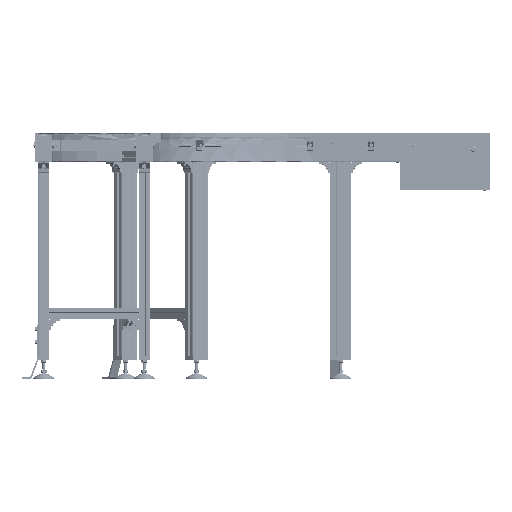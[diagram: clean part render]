
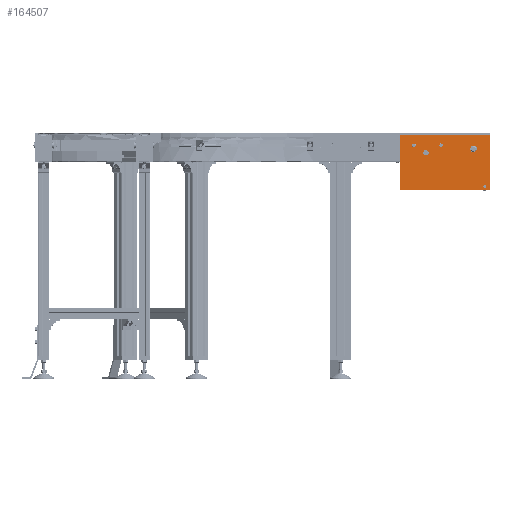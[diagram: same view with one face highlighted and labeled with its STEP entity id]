
A CAD part, left-side view. The second image highlights one B-rep face of the part: STEP entity #164507.
In plain terms, the highlighted planar face has unit normal (-1, 0, 0).
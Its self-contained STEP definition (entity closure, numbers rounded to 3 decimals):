
#4001=LINE('',#240261,#20099);
#4013=LINE('',#240297,#20111);
#4014=LINE('',#240299,#20112);
#4015=LINE('',#240300,#20113);
#20099=VECTOR('',#192328,330.);
#20111=VECTOR('',#192354,200.);
#20112=VECTOR('',#192355,200.);
#20113=VECTOR('',#192356,330.);
#34828=PLANE('',#173848);
#42120=FACE_BOUND('',#53375,.T.);
#42121=FACE_BOUND('',#53376,.T.);
#42122=FACE_BOUND('',#53377,.T.);
#42123=FACE_BOUND('',#53378,.T.);
#42124=FACE_BOUND('',#53379,.T.);
#44504=FACE_OUTER_BOUND('',#53374,.T.);
#53374=EDGE_LOOP('',(#112289,#112290,#112291,#112292));
#53375=EDGE_LOOP('',(#112293));
#53376=EDGE_LOOP('',(#112294));
#53377=EDGE_LOOP('',(#112295));
#53378=EDGE_LOOP('',(#112296));
#53379=EDGE_LOOP('',(#112297));
#63074=CIRCLE('',#173713,10.);
#63121=CIRCLE('',#173812,5.);
#63138=CIRCLE('',#173849,6.5);
#63139=CIRCLE('',#173850,6.5);
#63140=CIRCLE('',#173851,10.);
#70179=VERTEX_POINT('',#239933);
#70253=VERTEX_POINT('',#240154);
#70278=VERTEX_POINT('',#240258);
#70279=VERTEX_POINT('',#240260);
#70296=VERTEX_POINT('',#240296);
#70297=VERTEX_POINT('',#240298);
#70298=VERTEX_POINT('',#240301);
#70299=VERTEX_POINT('',#240303);
#70300=VERTEX_POINT('',#240305);
#86382=EDGE_CURVE('',#70179,#70179,#63074,.T.);
#86477=EDGE_CURVE('',#70253,#70253,#63121,.T.);
#86514=EDGE_CURVE('',#70279,#70278,#4001,.T.);
#86532=EDGE_CURVE('',#70296,#70279,#4013,.T.);
#86533=EDGE_CURVE('',#70278,#70297,#4014,.T.);
#86534=EDGE_CURVE('',#70297,#70296,#4015,.T.);
#86535=EDGE_CURVE('',#70298,#70298,#63138,.T.);
#86536=EDGE_CURVE('',#70299,#70299,#63139,.T.);
#86537=EDGE_CURVE('',#70300,#70300,#63140,.T.);
#112289=ORIENTED_EDGE('',*,*,#86532,.T.);
#112290=ORIENTED_EDGE('',*,*,#86514,.T.);
#112291=ORIENTED_EDGE('',*,*,#86533,.T.);
#112292=ORIENTED_EDGE('',*,*,#86534,.T.);
#112293=ORIENTED_EDGE('',*,*,#86382,.T.);
#112294=ORIENTED_EDGE('',*,*,#86477,.T.);
#112295=ORIENTED_EDGE('',*,*,#86535,.T.);
#112296=ORIENTED_EDGE('',*,*,#86536,.F.);
#112297=ORIENTED_EDGE('',*,*,#86537,.F.);
#164507=ADVANCED_FACE('',(#44504,#42120,#42121,#42122,#42123,#42124),#34828,
 .T.);
#173713=AXIS2_PLACEMENT_3D('',#239934,#192008,#192009);
#173812=AXIS2_PLACEMENT_3D('',#240155,#192254,#192255);
#173848=AXIS2_PLACEMENT_3D('',#240295,#192352,#192353);
#173849=AXIS2_PLACEMENT_3D('',#240302,#192357,#192358);
#173850=AXIS2_PLACEMENT_3D('',#240304,#192359,#192360);
#173851=AXIS2_PLACEMENT_3D('',#240306,#192361,#192362);
#192008=DIRECTION('center_axis',(1.,0.,0.));
#192009=DIRECTION('ref_axis',(0.,0.431,-0.902));
#192254=DIRECTION('center_axis',(1.,0.,0.));
#192255=DIRECTION('ref_axis',(0.,1.,0.));
#192328=DIRECTION('',(0.,1.,0.));
#192352=DIRECTION('center_axis',(-1.,0.,0.));
#192353=DIRECTION('ref_axis',(0.,-1.,0.));
#192354=DIRECTION('',(0.,0.,1.));
#192355=DIRECTION('',(0.,0.,-1.));
#192356=DIRECTION('',(0.,-1.,0.));
#192357=DIRECTION('center_axis',(1.,0.,0.));
#192358=DIRECTION('ref_axis',(0.,1.,0.));
#192359=DIRECTION('center_axis',(-1.,0.,0.));
#192360=DIRECTION('ref_axis',(0.,1.,0.));
#192361=DIRECTION('center_axis',(-1.,0.,0.));
#192362=DIRECTION('ref_axis',(0.,-0.108,0.994));
#239933=CARTESIAN_POINT('',(1147.8,-1401.311,55.723));
#239934=CARTESIAN_POINT('Origin',(1147.8,-1397.,46.7));
#240154=CARTESIAN_POINT('',(1147.8,-1434.,-91.05));
#240155=CARTESIAN_POINT('Origin',(1147.8,-1439.,-91.05));
#240258=CARTESIAN_POINT('',(1147.8,-1128.,96.45));
#240260=CARTESIAN_POINT('',(1147.8,-1458.,96.45));
#240261=CARTESIAN_POINT('',(1147.8,-1293.,96.45));
#240295=CARTESIAN_POINT('Origin',(1147.8,-1293.,-3.55));
#240296=CARTESIAN_POINT('',(1147.8,-1458.,-103.55));
#240297=CARTESIAN_POINT('',(1147.8,-1458.,-3.55));
#240298=CARTESIAN_POINT('',(1147.8,-1128.,-103.55));
#240299=CARTESIAN_POINT('',(1147.8,-1128.,-3.55));
#240300=CARTESIAN_POINT('',(1147.8,-1293.,-103.55));
#240301=CARTESIAN_POINT('',(1147.8,-1271.5,59.975));
#240302=CARTESIAN_POINT('Origin',(1147.8,-1278.,59.975));
#240303=CARTESIAN_POINT('',(1147.8,-1171.5,59.975));
#240304=CARTESIAN_POINT('Origin',(1147.8,-1178.,59.975));
#240305=CARTESIAN_POINT('',(1147.8,-1223.078,42.642));
#240306=CARTESIAN_POINT('Origin',(1147.8,-1222.,32.7));
